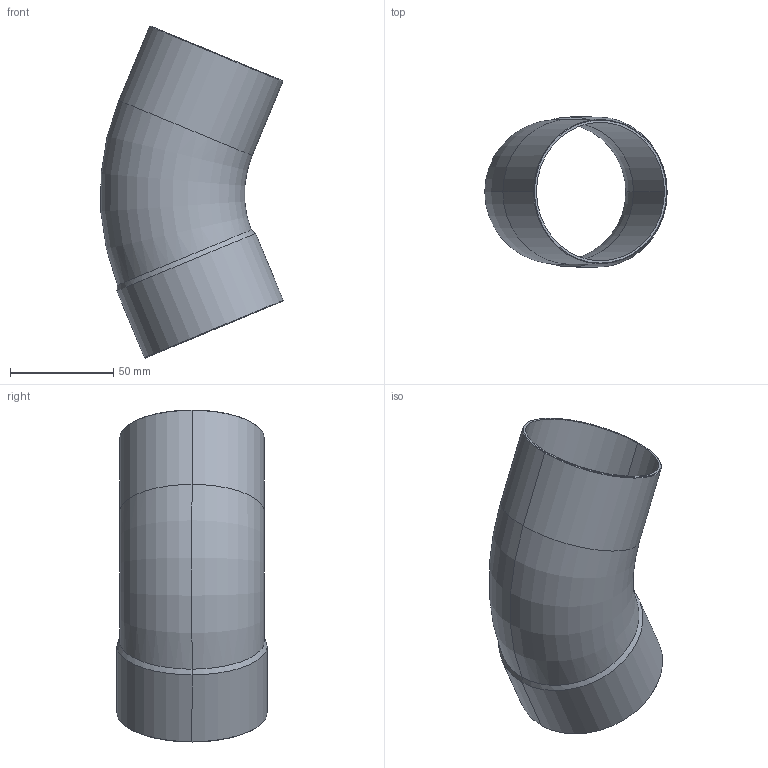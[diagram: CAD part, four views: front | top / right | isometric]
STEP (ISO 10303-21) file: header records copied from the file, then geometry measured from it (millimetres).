
FILE_DESCRIPTION((''),'2;1');
FILE_NAME('P:\Bouwmaten\z-maattekeningen 3D\5000\5040\1504070.stp','2005-10-05T11:55:29',('Kris'),(''),'Autodesk Inventor 8','Autodesk Inventor 8','');
FILE_SCHEMA(('AUTOMOTIVE_DESIGN { 1 0 10303 214 1 1 1 1 }'));
Length unit declared in the file: millimetre
Products named in the file (1): 1504070
Bounding box: 88.47 x 72.8 x 161.06 mm (x, y, z)
Volume: 43192.1 mm3; surface area: 62244.1 mm2
Topology: 1 solids, 1 shells, 24 faces, 50 edges, 28 vertices
Faces by surface type: cone 10, cylinder 8, torus 4, plane 2
Entity records: 729 total; most frequent: CARTESIAN_POINT 179, DIRECTION 124, ORIENTED_EDGE 100, AXIS2_PLACEMENT_3D 53, EDGE_CURVE 50, VERTEX_POINT 28, CIRCLE 28, EDGE_LOOP 26
